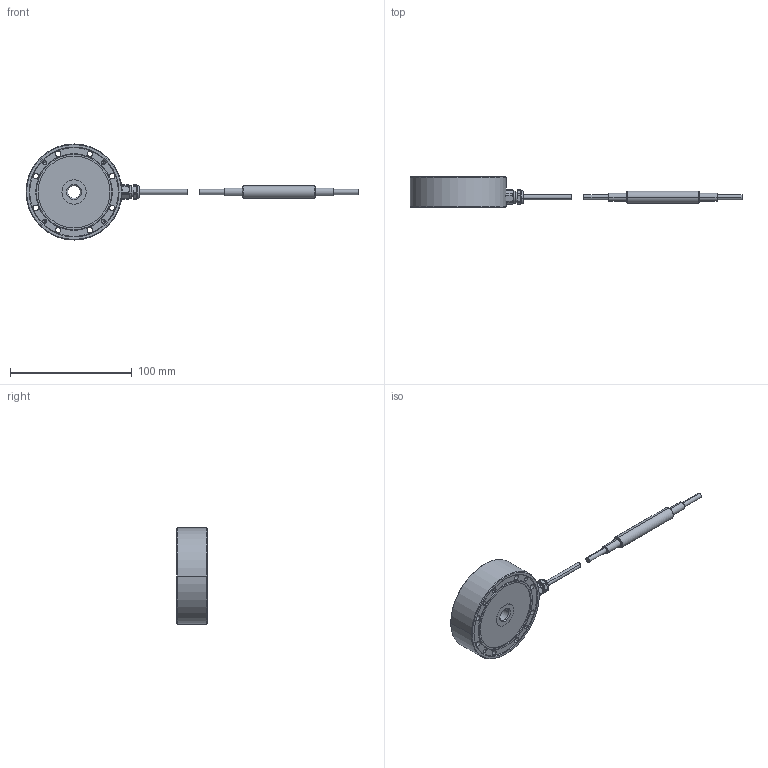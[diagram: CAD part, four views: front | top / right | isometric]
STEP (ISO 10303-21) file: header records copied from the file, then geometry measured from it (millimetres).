
FILE_DESCRIPTION(('STEP AP203'),'1');
FILE_NAME('C:/TPO v2/SharedFS/Outgoing/burster_8524-6020_bnldmgfczee9fz3a0jdiizgyq.stp','2013-08-28T17:32:14',('TraceParts'),('TraceParts S.A.'),'XStep 1.0',' ',' ');
FILE_SCHEMA(('CONFIG_CONTROL_DESIGN'));
Length unit declared in the file: millimetre
Products named in the file (2): 1; 2
Bounding box: 273 x 25 x 79 mm (x, y, z)
Volume: 119381.5 mm3; surface area: 24428.7 mm2
Topology: 2 solids, 2 shells, 173 faces, 407 edges, 254 vertices
Faces by surface type: cylinder 86, cone 42, plane 37, torus 6, bspline 2
Entity records: 5133 total; most frequent: CARTESIAN_POINT 964, DIRECTION 941, ORIENTED_EDGE 798, AXIS2_PLACEMENT_3D 403, EDGE_CURVE 399, VERTEX_POINT 254, CIRCLE 222, EDGE_LOOP 215
